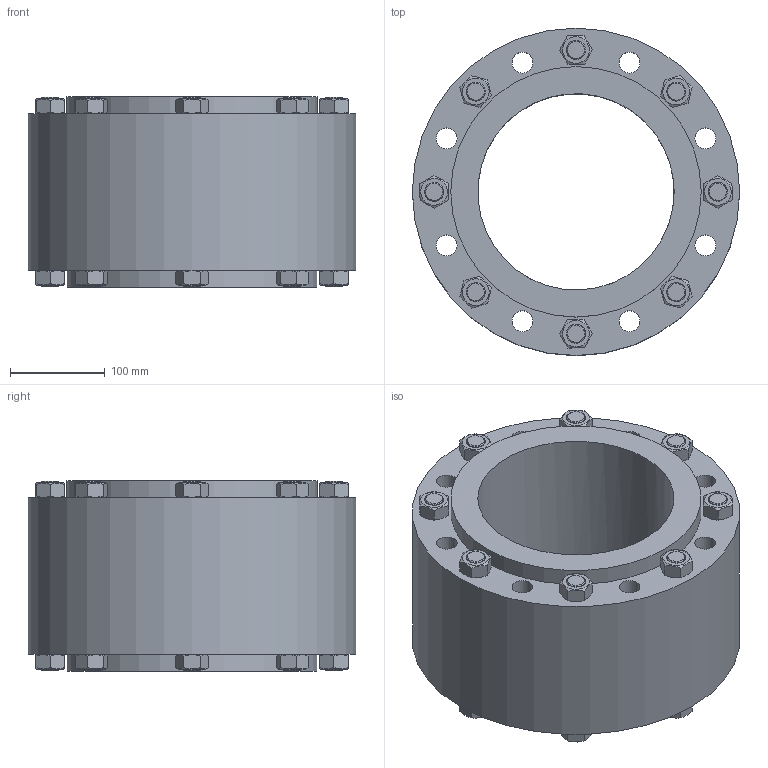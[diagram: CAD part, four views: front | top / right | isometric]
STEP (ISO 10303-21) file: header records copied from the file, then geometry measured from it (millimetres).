
FILE_DESCRIPTION(/* description */ ('ACI TYPE 620 DN200 PN10'),/* implementation_level */ '2;1');
FILE_NAME(/* name */ 'C:\Users\willms\Desktop\ACI-620-200-10.stp',/* time_stamp */ '2020-03-19T10:33:14+01:00',/* author */ ('götz'),/* organization */ ('ACI Industriearmaturen GmbH www.aci24.com info@aci24.com'),/* preprocessor_version */ 'ST-DEVELOPER v16.1',/* originating_system */ 'Autodesk Inventor 2016',/* authorisation */ 'ACI Industriearmaturen GmbH www.aci24.com info@aci24.com');
FILE_SCHEMA (('CONFIG_CONTROL_DESIGN'));
Length unit declared in the file: centimetre
Products named in the file (1): ACI-620-200-10
Bounding box: 345 x 345 x 201 mm (x, y, z)
Volume: 10332757.4 mm3; surface area: 574180.2 mm2
Topology: 1 solids, 17 shells, 272 faces, 613 edges, 393 vertices
Faces by surface type: plane 148, cone 80, cylinder 44
Full cylindrical faces by diameter (mm): 20 x32, 22 x8, 207 x1, 264 x2, 345 x1
Entity records: 6782 total; most frequent: CARTESIAN_POINT 1473, DIRECTION 978, ORIENTED_EDGE 912, EDGE_LOOP 464, EDGE_CURVE 456, AXIS2_PLACEMENT_3D 441, VERTEX_POINT 360, FACE_OUTER_BOUND 272
